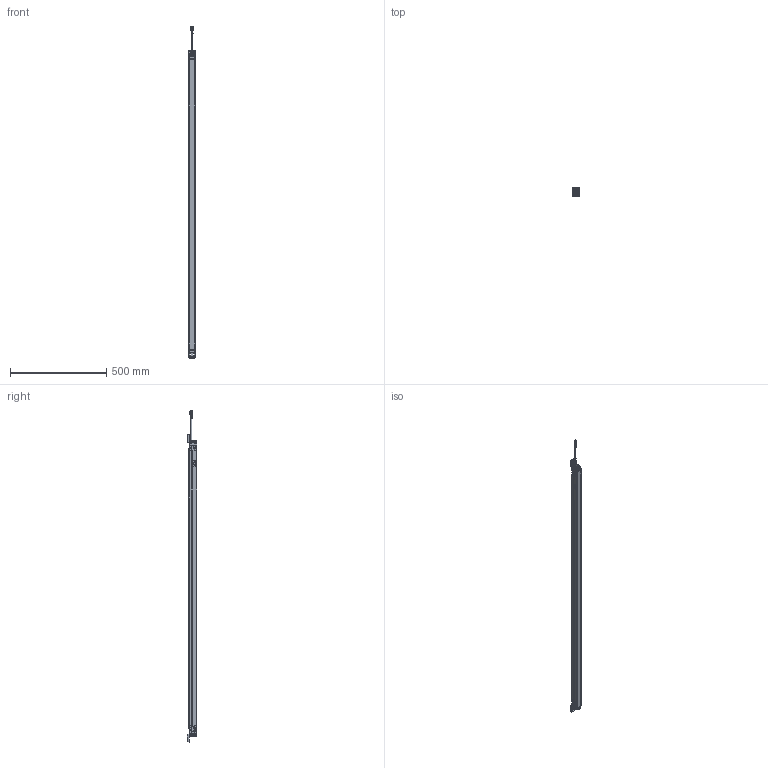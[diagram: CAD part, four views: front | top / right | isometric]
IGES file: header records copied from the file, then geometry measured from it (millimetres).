
Global section: file name: H304899_A_PSEN_opIIXX-s-yy-150_Kundendaten; native system: Autodesk Inventor 2017; preprocessor: unknown; author: jebe; date: 20160701.093643; units: millimetre
Bounding box: 35.02 x 48 x 1721.5 mm (x, y, z)
Volume: 2006718.4 mm3; surface area: 311982.9 mm2
Topology: 6 solids, 8 shells, 4111 faces, 10149 edges, 6046 vertices
Faces by surface type: bspline 4111
